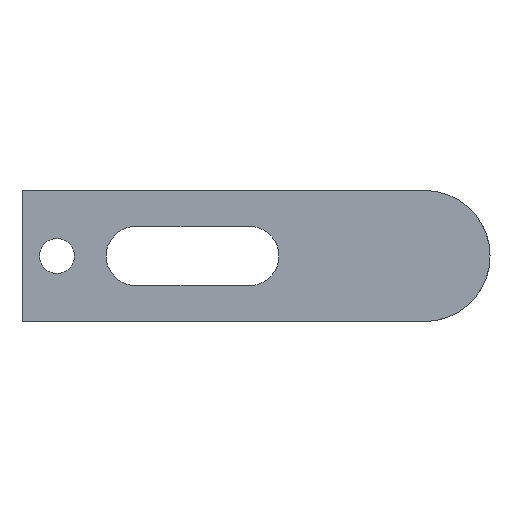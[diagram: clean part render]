
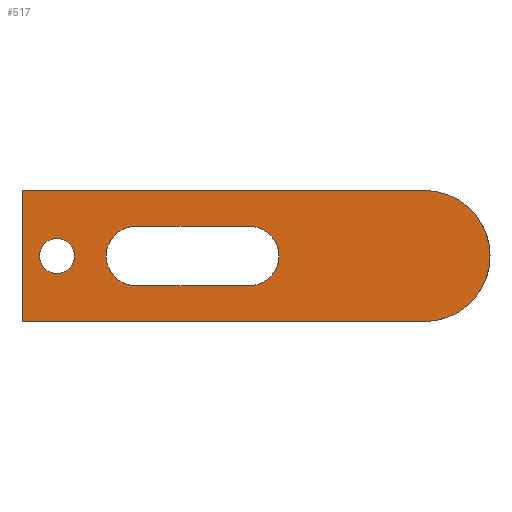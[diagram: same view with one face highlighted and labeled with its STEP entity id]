
A CAD part, front view. The second image highlights one B-rep face of the part: STEP entity #517.
In plain terms, the highlighted planar face has unit normal (0, -1, 0).
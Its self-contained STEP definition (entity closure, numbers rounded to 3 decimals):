
#290=CARTESIAN_POINT('Vertex',(-15.,0.,15.)) ;
#293=CARTESIAN_POINT('Axis2P3D Location',(-15.,0.,0.)) ;
#297=CARTESIAN_POINT('Vertex',(-15.,0.,-15.)) ;
#399=CARTESIAN_POINT('Line Origine',(-61.,0.,15.)) ;
#403=CARTESIAN_POINT('Vertex',(-107.,0.,15.)) ;
#426=CARTESIAN_POINT('Axis2P3D Location',(-107.,0.,15.)) ;
#431=CARTESIAN_POINT('Line Origine',(-61.,0.,-15.)) ;
#435=CARTESIAN_POINT('Vertex',(-107.,0.,-15.)) ;
#438=CARTESIAN_POINT('Line Origine',(-107.,0.,0.)) ;
#449=CARTESIAN_POINT('Axis2P3D Location',(-99.,0.,0.)) ;
#453=CARTESIAN_POINT('Vertex',(-95.,0.,0.)) ;
#455=CARTESIAN_POINT('Vertex',(-99.,0.,-4.)) ;
#458=CARTESIAN_POINT('Axis2P3D Location',(-99.,0.,0.)) ;
#462=CARTESIAN_POINT('Vertex',(-103.,0.,0.)) ;
#465=CARTESIAN_POINT('Axis2P3D Location',(-99.,0.,0.)) ;
#469=CARTESIAN_POINT('Vertex',(-99.,0.,4.)) ;
#472=CARTESIAN_POINT('Axis2P3D Location',(-99.,0.,0.)) ;
#483=CARTESIAN_POINT('Line Origine',(-68.,0.,-6.75)) ;
#487=CARTESIAN_POINT('Vertex',(-55.,0.,-6.75)) ;
#489=CARTESIAN_POINT('Vertex',(-81.,0.,-6.75)) ;
#492=CARTESIAN_POINT('Axis2P3D Location',(-81.,0.,0.)) ;
#496=CARTESIAN_POINT('Vertex',(-81.,0.,6.75)) ;
#499=CARTESIAN_POINT('Line Origine',(-68.,0.,6.75)) ;
#503=CARTESIAN_POINT('Vertex',(-55.,0.,6.75)) ;
#506=CARTESIAN_POINT('Axis2P3D Location',(-55.,0.,0.)) ;
#294=DIRECTION('Axis2P3D Direction',(0.,1.,0.)) ;
#400=DIRECTION('Vector Direction',(1.,0.,0.)) ;
#427=DIRECTION('Axis2P3D Direction',(0.,1.,0.)) ;
#428=DIRECTION('Axis2P3D XDirection',(0.,-0.,1.)) ;
#432=DIRECTION('Vector Direction',(1.,0.,0.)) ;
#439=DIRECTION('Vector Direction',(0.,0.,-1.)) ;
#450=DIRECTION('Axis2P3D Direction',(0.,1.,0.)) ;
#459=DIRECTION('Axis2P3D Direction',(0.,1.,0.)) ;
#466=DIRECTION('Axis2P3D Direction',(0.,1.,0.)) ;
#473=DIRECTION('Axis2P3D Direction',(0.,1.,0.)) ;
#484=DIRECTION('Vector Direction',(-1.,0.,0.)) ;
#493=DIRECTION('Axis2P3D Direction',(0.,1.,0.)) ;
#500=DIRECTION('Vector Direction',(1.,0.,0.)) ;
#507=DIRECTION('Axis2P3D Direction',(0.,1.,0.)) ;
#295=AXIS2_PLACEMENT_3D('Circle Axis2P3D',#293,#294,$) ;
#429=AXIS2_PLACEMENT_3D('Plane Axis2P3D',#426,#427,#428) ;
#451=AXIS2_PLACEMENT_3D('Circle Axis2P3D',#449,#450,$) ;
#460=AXIS2_PLACEMENT_3D('Circle Axis2P3D',#458,#459,$) ;
#467=AXIS2_PLACEMENT_3D('Circle Axis2P3D',#465,#466,$) ;
#474=AXIS2_PLACEMENT_3D('Circle Axis2P3D',#472,#473,$) ;
#494=AXIS2_PLACEMENT_3D('Circle Axis2P3D',#492,#493,$) ;
#508=AXIS2_PLACEMENT_3D('Circle Axis2P3D',#506,#507,$) ;
#444=ORIENTED_EDGE('',*,*,#437,.T.) ;
#445=ORIENTED_EDGE('',*,*,#299,.F.) ;
#446=ORIENTED_EDGE('',*,*,#405,.F.) ;
#447=ORIENTED_EDGE('',*,*,#442,.T.) ;
#478=ORIENTED_EDGE('',*,*,#457,.T.) ;
#479=ORIENTED_EDGE('',*,*,#464,.T.) ;
#480=ORIENTED_EDGE('',*,*,#471,.T.) ;
#481=ORIENTED_EDGE('',*,*,#476,.T.) ;
#512=ORIENTED_EDGE('',*,*,#491,.T.) ;
#513=ORIENTED_EDGE('',*,*,#498,.T.) ;
#514=ORIENTED_EDGE('',*,*,#505,.T.) ;
#515=ORIENTED_EDGE('',*,*,#510,.T.) ;
#482=FACE_BOUND('',#477,.T.) ;
#516=FACE_BOUND('',#511,.T.) ;
#401=VECTOR('Line Direction',#400,1.) ;
#433=VECTOR('Line Direction',#432,1.) ;
#440=VECTOR('Line Direction',#439,1.) ;
#485=VECTOR('Line Direction',#484,1.) ;
#501=VECTOR('Line Direction',#500,1.) ;
#517=ADVANCED_FACE('702-6',(#448,#482,#516),#430,.F.) ;
#296=CIRCLE('generated circle',#295,15.) ;
#452=CIRCLE('generated circle',#451,4.) ;
#461=CIRCLE('generated circle',#460,4.) ;
#468=CIRCLE('generated circle',#467,4.) ;
#475=CIRCLE('generated circle',#474,4.) ;
#495=CIRCLE('generated circle',#494,6.75) ;
#509=CIRCLE('generated circle',#508,6.75) ;
#299=EDGE_CURVE('',#291,#298,#296,.T.) ;
#405=EDGE_CURVE('',#404,#291,#402,.T.) ;
#437=EDGE_CURVE('',#436,#298,#434,.T.) ;
#442=EDGE_CURVE('',#404,#436,#441,.T.) ;
#457=EDGE_CURVE('',#454,#456,#452,.T.) ;
#464=EDGE_CURVE('',#456,#463,#461,.T.) ;
#471=EDGE_CURVE('',#463,#470,#468,.T.) ;
#476=EDGE_CURVE('',#470,#454,#475,.T.) ;
#491=EDGE_CURVE('',#488,#490,#486,.T.) ;
#498=EDGE_CURVE('',#490,#497,#495,.T.) ;
#505=EDGE_CURVE('',#497,#504,#502,.T.) ;
#510=EDGE_CURVE('',#504,#488,#509,.T.) ;
#443=EDGE_LOOP('',(#444,#445,#446,#447)) ;
#477=EDGE_LOOP('',(#478,#479,#480,#481)) ;
#511=EDGE_LOOP('',(#512,#513,#514,#515)) ;
#448=FACE_OUTER_BOUND('',#443,.T.) ;
#402=LINE('Line',#399,#401) ;
#434=LINE('Line',#431,#433) ;
#441=LINE('Line',#438,#440) ;
#486=LINE('Line',#483,#485) ;
#502=LINE('Line',#499,#501) ;
#430=PLANE('Plane',#429) ;
#291=VERTEX_POINT('',#290) ;
#298=VERTEX_POINT('',#297) ;
#404=VERTEX_POINT('',#403) ;
#436=VERTEX_POINT('',#435) ;
#454=VERTEX_POINT('',#453) ;
#456=VERTEX_POINT('',#455) ;
#463=VERTEX_POINT('',#462) ;
#470=VERTEX_POINT('',#469) ;
#488=VERTEX_POINT('',#487) ;
#490=VERTEX_POINT('',#489) ;
#497=VERTEX_POINT('',#496) ;
#504=VERTEX_POINT('',#503) ;
